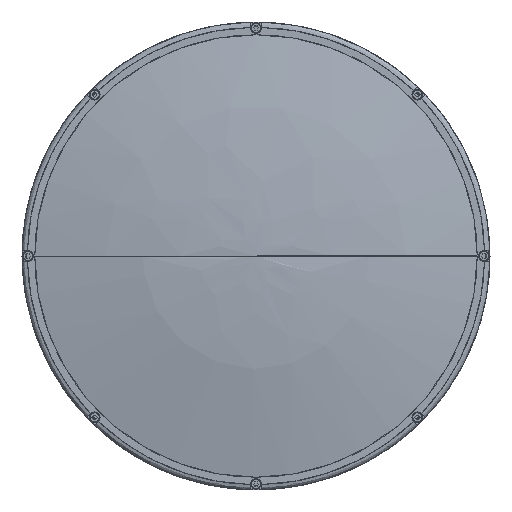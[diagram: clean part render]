
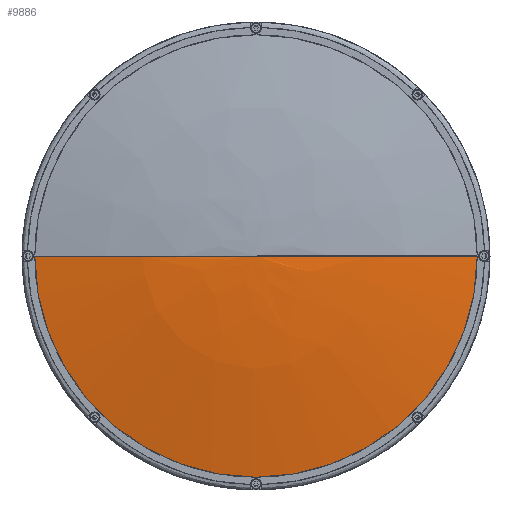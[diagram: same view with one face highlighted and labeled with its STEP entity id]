
A CAD part, left-side view. The second image highlights one B-rep face of the part: STEP entity #9886.
In plain terms, the highlighted face is a revolution surface.
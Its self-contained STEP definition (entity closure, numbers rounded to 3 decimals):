
#9886 = ADVANCED_FACE('',(#9887),#9905,.T.);
#9887 = FACE_BOUND('',#9888,.T.);
#9888 = EDGE_LOOP('',(#9889,#9919,#9938,#9957));
#9889 = ORIENTED_EDGE('',*,*,#9890,.F.);
#9890 = EDGE_CURVE('',#9891,#9893,#9895,.T.);
#9891 = VERTEX_POINT('',#9892);
#9892 = CARTESIAN_POINT('',(-560.373,0.,0.
    ));
#9893 = VERTEX_POINT('',#9894);
#9894 = CARTESIAN_POINT('',(-547.362,124.9,
    0.));
#9895 = SURFACE_CURVE('',#9896,(#9904),.PCURVE_S1.);
#9896 = ( BOUNDED_CURVE() B_SPLINE_CURVE(6,(#9897,#9898,#9899,#9900,
#9901,#9902,#9903),.UNSPECIFIED.,.F.,.F.) B_SPLINE_CURVE_WITH_KNOTS((7,7
),(0.,1.),.PIECEWISE_BEZIER_KNOTS.) CURVE() 
GEOMETRIC_REPRESENTATION_ITEM() RATIONAL_B_SPLINE_CURVE((1.001,
    1.,1.,1.,1.,
1.,1.001)) REPRESENTATION_ITEM('') );
#9897 = CARTESIAN_POINT('',(-560.373,0.,
    0.));
#9898 = CARTESIAN_POINT('',(-560.373,20.974,
    0.));
#9899 = CARTESIAN_POINT('',(-559.502,41.94,
    0.));
#9900 = CARTESIAN_POINT('',(-557.761,62.856,
    0.));
#9901 = CARTESIAN_POINT('',(-555.154,83.681,
    0.));
#9902 = CARTESIAN_POINT('',(-551.685,104.376,
    0.));
#9903 = CARTESIAN_POINT('',(-547.362,124.9,
    0.));
#9904 = PCURVE('',#9905,#9914);
#9905 = SURFACE_OF_REVOLUTION('',#9906,#9911);
#9906 = CIRCLE('',#9907,606.);
#9907 = AXIS2_PLACEMENT_3D('',#9908,#9909,#9910);
#9908 = CARTESIAN_POINT('',(45.627,0.,0.));
#9909 = DIRECTION('',(-0.,0.,1.));
#9910 = DIRECTION('',(1.,0.,0.));
#9911 = AXIS1_PLACEMENT('',#9912,#9913);
#9912 = CARTESIAN_POINT('',(45.627,0.,0.));
#9913 = DIRECTION('',(1.,0.,0.));
#9914 = DEFINITIONAL_REPRESENTATION('',(#9915),#9918);
#9915 = B_SPLINE_CURVE_WITH_KNOTS('',1,(#9916,#9917),.UNSPECIFIED.,.F.,
  .F.,(2,2),(0.,1.),.PIECEWISE_BEZIER_KNOTS.);
#9916 = CARTESIAN_POINT('',(6.283,3.142));
#9917 = CARTESIAN_POINT('',(6.283,2.934));
#9918 = ( GEOMETRIC_REPRESENTATION_CONTEXT(2) 
PARAMETRIC_REPRESENTATION_CONTEXT() REPRESENTATION_CONTEXT('',''
  ) );
#9919 = ORIENTED_EDGE('',*,*,#9920,.F.);
#9920 = EDGE_CURVE('',#9921,#9891,#9923,.T.);
#9921 = VERTEX_POINT('',#9922);
#9922 = CARTESIAN_POINT('',(-560.373,0.,
    0.));
#9923 = SURFACE_CURVE('',#9924,(#9932),.PCURVE_S1.);
#9924 = ( BOUNDED_CURVE() B_SPLINE_CURVE(6,(#9925,#9926,#9927,#9928,
#9929,#9930,#9931),.UNSPECIFIED.,.F.,.F.) B_SPLINE_CURVE_WITH_KNOTS((7,7
),(0.,1.),.PIECEWISE_BEZIER_KNOTS.) CURVE() 
GEOMETRIC_REPRESENTATION_ITEM() RATIONAL_B_SPLINE_CURVE((1.133,
    1.036,0.992,0.976,0.992,
1.036,1.133)) REPRESENTATION_ITEM('') );
#9925 = CARTESIAN_POINT('',(-560.373,0.,
    0.));
#9926 = CARTESIAN_POINT('',(-560.373,0.,
    0.));
#9927 = CARTESIAN_POINT('',(-560.373,0.,
    0.));
#9928 = CARTESIAN_POINT('',(-560.373,0.,
    0.));
#9929 = CARTESIAN_POINT('',(-560.373,0.,
    0.));
#9930 = CARTESIAN_POINT('',(-560.373,0.,
    0.));
#9931 = CARTESIAN_POINT('',(-560.373,0.,
    0.));
#9932 = PCURVE('',#9905,#9933);
#9933 = DEFINITIONAL_REPRESENTATION('',(#9934),#9937);
#9934 = B_SPLINE_CURVE_WITH_KNOTS('',1,(#9935,#9936),.UNSPECIFIED.,.F.,
  .F.,(2,2),(0.,1.),.PIECEWISE_BEZIER_KNOTS.);
#9935 = CARTESIAN_POINT('',(3.142,3.142));
#9936 = CARTESIAN_POINT('',(6.283,3.142));
#9937 = ( GEOMETRIC_REPRESENTATION_CONTEXT(2) 
PARAMETRIC_REPRESENTATION_CONTEXT() REPRESENTATION_CONTEXT('',''
  ) );
#9938 = ORIENTED_EDGE('',*,*,#9939,.F.);
#9939 = EDGE_CURVE('',#9940,#9921,#9942,.T.);
#9940 = VERTEX_POINT('',#9941);
#9941 = CARTESIAN_POINT('',(-547.362,-124.9,
    0.));
#9942 = SURFACE_CURVE('',#9943,(#9951),.PCURVE_S1.);
#9943 = ( BOUNDED_CURVE() B_SPLINE_CURVE(6,(#9944,#9945,#9946,#9947,
#9948,#9949,#9950),.UNSPECIFIED.,.F.,.F.) B_SPLINE_CURVE_WITH_KNOTS((7,7
),(0.,1.),.PIECEWISE_BEZIER_KNOTS.) CURVE() 
GEOMETRIC_REPRESENTATION_ITEM() RATIONAL_B_SPLINE_CURVE((1.001,
    1.,1.,1.,1.,
1.,1.001)) REPRESENTATION_ITEM('') );
#9944 = CARTESIAN_POINT('',(-547.362,-124.9,
    0.));
#9945 = CARTESIAN_POINT('',(-551.685,-104.376,
    0.));
#9946 = CARTESIAN_POINT('',(-555.154,-83.681,
    0.));
#9947 = CARTESIAN_POINT('',(-557.761,-62.856,
    0.));
#9948 = CARTESIAN_POINT('',(-559.502,-41.94,
    0.));
#9949 = CARTESIAN_POINT('',(-560.373,-20.974,
    0.));
#9950 = CARTESIAN_POINT('',(-560.373,0.,
    0.));
#9951 = PCURVE('',#9905,#9952);
#9952 = DEFINITIONAL_REPRESENTATION('',(#9953),#9956);
#9953 = B_SPLINE_CURVE_WITH_KNOTS('',1,(#9954,#9955),.UNSPECIFIED.,.F.,
  .F.,(2,2),(0.,1.),.PIECEWISE_BEZIER_KNOTS.);
#9954 = CARTESIAN_POINT('',(3.142,2.934));
#9955 = CARTESIAN_POINT('',(3.142,3.142));
#9956 = ( GEOMETRIC_REPRESENTATION_CONTEXT(2) 
PARAMETRIC_REPRESENTATION_CONTEXT() REPRESENTATION_CONTEXT('',''
  ) );
#9957 = ORIENTED_EDGE('',*,*,#9958,.F.);
#9958 = EDGE_CURVE('',#9893,#9940,#9959,.T.);
#9959 = SURFACE_CURVE('',#9960,(#9972),.PCURVE_S1.);
#9960 = B_SPLINE_CURVE_WITH_KNOTS('',10,(#9961,#9962,#9963,#9964,#9965,
    #9966,#9967,#9968,#9969,#9970,#9971),.UNSPECIFIED.,.F.,.F.,(11,11),(
    0.,1.),.PIECEWISE_BEZIER_KNOTS.);
#9961 = CARTESIAN_POINT('',(-547.362,124.9,
    0.));
#9962 = CARTESIAN_POINT('',(-547.362,124.9,
    -39.238));
#9963 = CARTESIAN_POINT('',(-547.362,111.203,
    -78.477));
#9964 = CARTESIAN_POINT('',(-547.362,83.809,
    -112.337));
#9965 = CARTESIAN_POINT('',(-547.362,45.134,
    -135.439));
#9966 = CARTESIAN_POINT('',(-547.362,0.,
    -143.67));
#9967 = CARTESIAN_POINT('',(-547.362,-45.134,
    -135.439));
#9968 = CARTESIAN_POINT('',(-547.362,-83.809,
    -112.337));
#9969 = CARTESIAN_POINT('',(-547.362,-111.203,
    -78.477));
#9970 = CARTESIAN_POINT('',(-547.362,-124.9,
    -39.238));
#9971 = CARTESIAN_POINT('',(-547.362,-124.9,
    0.));
#9972 = PCURVE('',#9905,#9973);
#9973 = DEFINITIONAL_REPRESENTATION('',(#9974),#9977);
#9974 = B_SPLINE_CURVE_WITH_KNOTS('',1,(#9975,#9976),.UNSPECIFIED.,.F.,
  .F.,(2,2),(0.,1.),.PIECEWISE_BEZIER_KNOTS.);
#9975 = CARTESIAN_POINT('',(6.283,2.934));
#9976 = CARTESIAN_POINT('',(3.142,2.934));
#9977 = ( GEOMETRIC_REPRESENTATION_CONTEXT(2) 
PARAMETRIC_REPRESENTATION_CONTEXT() REPRESENTATION_CONTEXT('',''
  ) );
